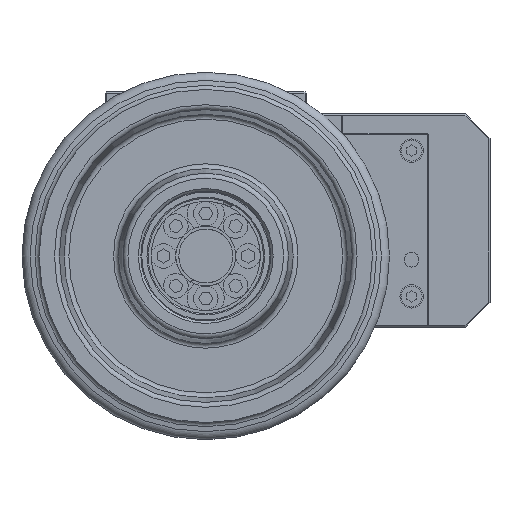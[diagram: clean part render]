
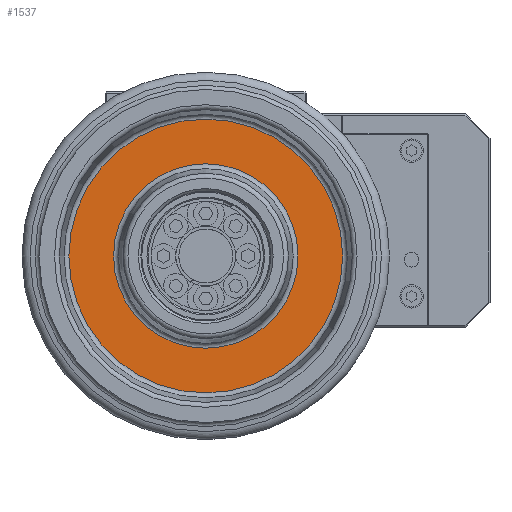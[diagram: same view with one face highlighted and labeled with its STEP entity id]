
A CAD part, front view. The second image highlights one B-rep face of the part: STEP entity #1537.
In plain terms, the highlighted planar face has unit normal (0, -1, 0).
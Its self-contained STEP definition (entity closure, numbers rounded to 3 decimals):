
#1537=ADVANCED_FACE('',(#5302,#5303),#5304,.F.);
#5302=FACE_BOUND('',#10159,.T.);
#5303=FACE_OUTER_BOUND('',#10160,.T.);
#5304=PLANE('',#10161);
#10159=EDGE_LOOP('',(#26237));
#10160=EDGE_LOOP('',(#26238));
#10161=AXIS2_PLACEMENT_3D('',#26239,#26240,#26241);
#26237=ORIENTED_EDGE('',*,*,#35709,.T.);
#26238=ORIENTED_EDGE('',*,*,#35706,.T.);
#26239=CARTESIAN_POINT('',(-73.3,-92.0,21.389));
#26240=DIRECTION('',(0.,1.0,0.));
#26241=DIRECTION('',(1.0,0.,0.0));
#35706=EDGE_CURVE('',#43858,#43858,#43859,.T.);
#35709=EDGE_CURVE('',#43864,#43864,#43865,.T.);
#43858=VERTEX_POINT('',#54574);
#43859=CIRCLE('',#54575,55.872);
#43864=VERTEX_POINT('',#54580);
#43865=CIRCLE('',#54581,37.628);
#54574=CARTESIAN_POINT('',(-73.3,-92.0,-70.372));
#54575=AXIS2_PLACEMENT_3D('',#65936,#65937,#65938);
#54580=CARTESIAN_POINT('',(-73.3,-92.0,-52.128));
#54581=AXIS2_PLACEMENT_3D('',#65945,#65946,#65947);
#65936=CARTESIAN_POINT('',(-73.3,-92.0,-14.5));
#65937=DIRECTION('',(0.,-1.0,0.));
#65938=DIRECTION('',(0.,0.,-1.0));
#65945=CARTESIAN_POINT('',(-73.3,-92.0,-14.5));
#65946=DIRECTION('',(0.,1.0,0.));
#65947=DIRECTION('',(0.,0.,-1.0));
